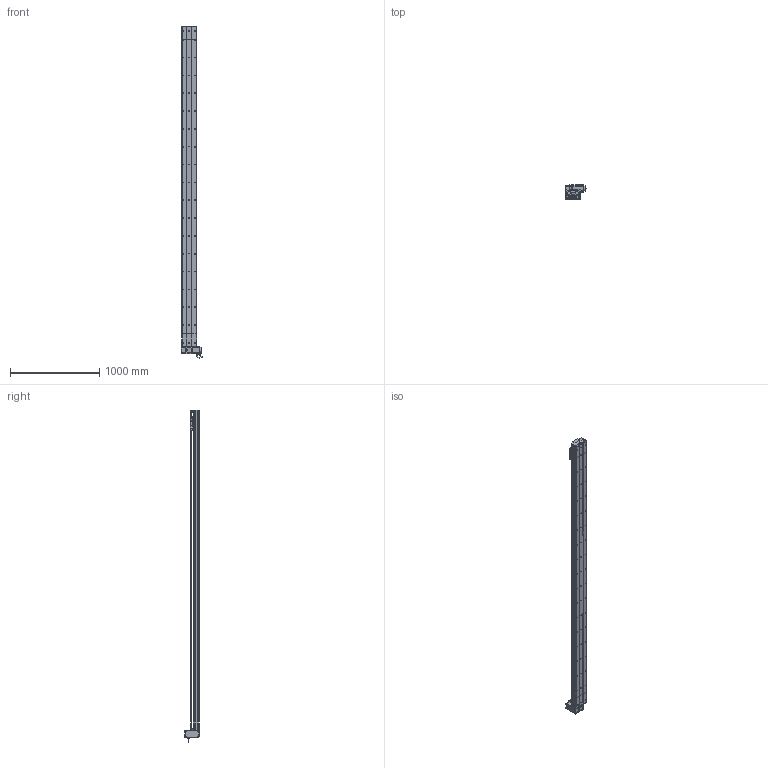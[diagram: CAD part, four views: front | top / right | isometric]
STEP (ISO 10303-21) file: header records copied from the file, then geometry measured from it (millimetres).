
FILE_DESCRIPTION (( 'STEP AP214' ), '1' );
FILE_NAME ('D17 TBH RT S3300.STEP', '2010-06-30T10:31:02', ( 'Christophe Gaillard' ), ( 'SGA' ), 'SwSTEP 2.0', 'SolidWorks 2010', '' );
FILE_SCHEMA (( 'AUTOMOTIVE_DESIGN' ));
Length unit declared in the file: millimetre
Products named in the file (40): Chariot D17; vis M5 L8 90°_Default; Couroie+ rail D17 Course 3300 ; codeur 90BLDC125-640; cache arbre D17_Default; plaque de  bout head D17B RT_Default; Renvoi RT_Default; Tail D17B+100_Default; corp tail D17B+100_Default; tete d''axe poulie D17B; Rail D17B; plaque de  bout tail D17B_Default; poulie tail_Default; Couroie tail D17B_Default; vis M5 L16_Default; vis M5 L12_Default; vis M5 L70_Default; course 3300 D17B_Default; corpl head D17 _Default; vis M5 L5_Default; Head RT D17B_Default; couvercle D17B course L3300_Default; couvercle D17B head_Default; Conecteur2_Default; cache D17_Default; couroie head D17_Default; Plaque racord D17_Default; Arbre+rail head D17B; guide D17; poulie head_Default; Conecteur_Default; couvercle D17B_Default; corp D17B 3300_Default; corps 90BLDC125A-640; Vis M5 L16-2_Default; avant 90BLDC125A-640; vis M5 L25_Default; Moteur motionking 90BLDC125A-640; chariot D17S_Default; D17 TBH RT S3300
Assembly tree (70 placements, depth 4):
  D17 TBH RT S3300
    chariot D17S_Default
      vis M5 L12_Default  x4
      guide D17  x2
      Chariot D17
    course 3300 D17B_Default
      couvercle D17B course L3300_Default
      Couroie+ rail D17 Course 3300 
      corp D17B 3300_Default
    Head RT D17B_Default
      Vis M5 L16-2_Default  x4
      corpl head D17 _Default
      vis M5 L25_Default  x2
      vis M5 L12_Default  x8
      Moteur motionking 90BLDC125A-640
        Conecteur_Default
        corps 90BLDC125A-640
        Conecteur2_Default
        avant 90BLDC125A-640
        codeur 90BLDC125-640
      vis M5 L5_Default  x4
      vis M5 L70_Default  x4
      vis M5 L16_Default  x2
      Arbre+rail head D17B
      cache D17_Default  x2
      poulie head_Default
      cache arbre D17_Default
      couroie head D17_Default
      Plaque racord D17_Default
      plaque de  bout head D17B RT_Default
      Renvoi RT_Default
      couvercle D17B head_Default
    Tail D17B+100_Default
      plaque de  bout tail D17B_Default
      tete d''axe poulie D17B
      corp tail D17B+100_Default
      vis M5 L8 90°_Default  x2
      couvercle D17B_Default
      vis M5 L12_Default  x4
      Couroie tail D17B_Default
      vis M5 L25_Default  x2
      poulie tail_Default
      Rail D17B
Bounding box: 245.2 x 166.15 x 3723.95 mm (x, y, z)
Volume: 21045179.7 mm3; surface area: 6151925.6 mm2
Topology: 94 solids, 94 shells, 2801 faces, 7191 edges, 4626 vertices
Faces by surface type: plane 1611, cylinder 877, bspline 136, cone 88, torus 85, sphere 4
Entity records: 89002 total; most frequent: CARTESIAN_POINT 25995, ORIENTED_EDGE 11154, DIRECTION 10550, EDGE_CURVE 5577, VERTEX_POINT 3650, LINE 3600, VECTOR 3600, AXIS2_PLACEMENT_3D 3475
